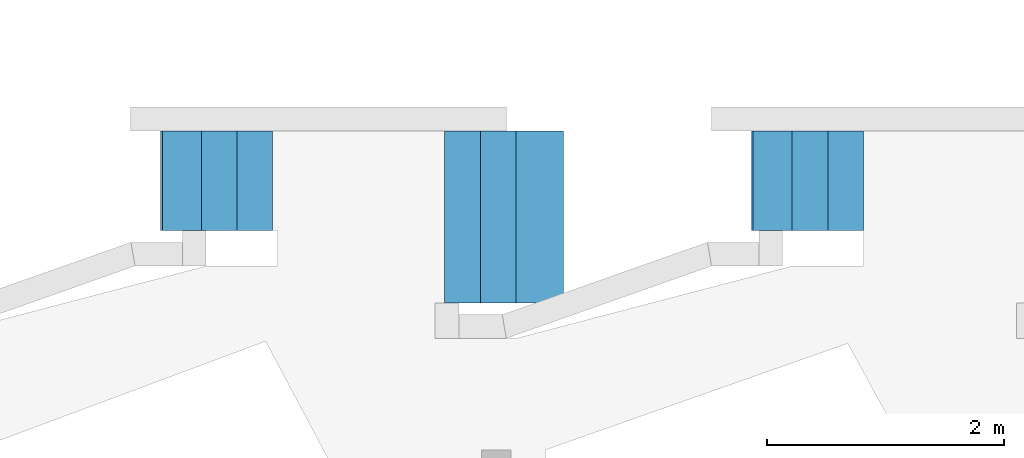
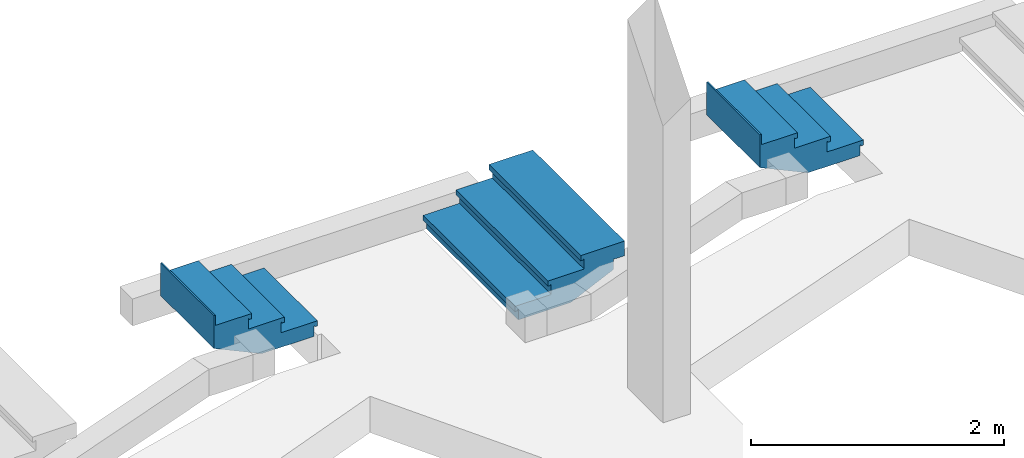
# One storey, part 7 of 8: 3 stair flights, 3 elements without a shape of their own.
"""IFC4 building model written with IfcOpenShell, lengths in metres."""

from ifc_helpers import new_model, entity, si_unit, converted_unit, derived_unit, direction, frame, origin, place, context, subcontext, project, spatial, polygons, material, constituent, constituent_set, type_object, element, aggregate, save


model = new_model("IFC4")

# Units and contexts
model_context = context("Model", 3, precision=1e-05, world=origin(), true_north=direction((6.123031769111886e-17, 1.0)))
body_context = subcontext(model_context, "Body", "Model", "MODEL_VIEW")
ifc_project = project(units=[si_unit("LENGTHUNIT", "METRE"), si_unit("AREAUNIT", "SQUARE_METRE"), si_unit("VOLUMEUNIT", "CUBIC_METRE"), converted_unit("PLANEANGLEUNIT", "DEGREE", entity("IfcRatioMeasure", 0.017453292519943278), si_unit("PLANEANGLEUNIT", "RADIAN"), dimensions=[0, 0, 0, 0, 0, 0, 0]), si_unit("MASSUNIT", "GRAM", prefix="KILO"), derived_unit("MASSDENSITYUNIT", [(si_unit("MASSUNIT", "GRAM", prefix="KILO"), 1), (si_unit("LENGTHUNIT", "METRE"), -3)]), derived_unit("MOMENTOFINERTIAUNIT", [(si_unit("LENGTHUNIT", "METRE"), 4)]), si_unit("TIMEUNIT", "SECOND"), si_unit("FREQUENCYUNIT", "HERTZ"), si_unit("THERMODYNAMICTEMPERATUREUNIT", "DEGREE_CELSIUS"), derived_unit("THERMALTRANSMITTANCEUNIT", [(si_unit("MASSUNIT", "GRAM", prefix="KILO"), 1), (si_unit("THERMODYNAMICTEMPERATUREUNIT", "KELVIN"), -1), (si_unit("TIMEUNIT", "SECOND"), -3)]), derived_unit("VOLUMETRICFLOWRATEUNIT", [(si_unit("LENGTHUNIT", "METRE"), 3), (si_unit("TIMEUNIT", "SECOND"), -1)]), derived_unit("MASSFLOWRATEUNIT", [(si_unit("MASSUNIT", "GRAM", prefix="KILO"), 1), (si_unit("TIMEUNIT", "SECOND"), -1)]), derived_unit("ROTATIONALFREQUENCYUNIT", [(si_unit("TIMEUNIT", "SECOND"), -1)]), si_unit("ELECTRICCURRENTUNIT", "AMPERE"), si_unit("ELECTRICVOLTAGEUNIT", "VOLT"), si_unit("POWERUNIT", "WATT"), si_unit("FORCEUNIT", "NEWTON", prefix="KILO"), si_unit("ILLUMINANCEUNIT", "LUX"), si_unit("LUMINOUSFLUXUNIT", "LUMEN"), si_unit("LUMINOUSINTENSITYUNIT", "CANDELA"), derived_unit("USERDEFINED", [(si_unit("MASSUNIT", "GRAM", prefix="KILO"), -1), (si_unit("LENGTHUNIT", "METRE"), -2), (si_unit("TIMEUNIT", "SECOND"), 3), (si_unit("LUMINOUSFLUXUNIT", "LUMEN"), 1)]), derived_unit("SOUNDPOWERUNIT", [(si_unit("MASSUNIT", "GRAM", prefix="KILO"), 1), (si_unit("LENGTHUNIT", "METRE"), 2), (si_unit("TIMEUNIT", "SECOND"), -3)]), derived_unit("SOUNDPRESSUREUNIT", [(si_unit("MASSUNIT", "GRAM", prefix="KILO"), 1), (si_unit("LENGTHUNIT", "METRE"), -1), (si_unit("TIMEUNIT", "SECOND"), -2)]), derived_unit("LINEARVELOCITYUNIT", [(si_unit("LENGTHUNIT", "METRE"), 1), (si_unit("TIMEUNIT", "SECOND"), -1)]), si_unit("PRESSUREUNIT", "PASCAL"), derived_unit("USERDEFINED", [(si_unit("LENGTHUNIT", "METRE"), -2), (si_unit("MASSUNIT", "GRAM", prefix="KILO"), 1), (si_unit("TIMEUNIT", "SECOND"), -2)]), derived_unit("LINEARFORCEUNIT", [(si_unit("MASSUNIT", "GRAM", prefix="KILO"), 1), (si_unit("LENGTHUNIT", "METRE"), 1), (si_unit("TIMEUNIT", "SECOND"), -2), (si_unit("LENGTHUNIT", "METRE"), -1)]), derived_unit("PLANARFORCEUNIT", [(si_unit("MASSUNIT", "GRAM", prefix="KILO"), 1), (si_unit("LENGTHUNIT", "METRE"), 1), (si_unit("TIMEUNIT", "SECOND"), -2), (si_unit("LENGTHUNIT", "METRE"), -2)])], contexts=[model_context])

# Site, building, storey
site_placement = place(None, origin())
site = spatial("IfcSite", under=ifc_project, at=site_placement, Name="Superficie", CompositionType="ELEMENT")
building_placement = place(site_placement, origin())
building = spatial("IfcBuilding", under=site, at=building_placement, CompositionType="ELEMENT")
storey_placement = place(building_placement, frame((0.0, 0.0, -0.5599999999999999)))
storey = spatial("IfcBuildingStorey", under=building, at=storey_placement, Name="Nivel -1", CompositionType="ELEMENT", Elevation=-0.5599999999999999)

# Stair, stair flight
stair_type_1 = type_object("IfcStairType", Name="Escalera prefabricada:Escalera prefabricada", PredefinedType="STRAIGHT_RUN_STAIR")
stair_1_placement = place(storey_placement, origin())
stair_1 = element("IfcStair", 1, at=stair_1_placement, inside=storey, type_object=stair_type_1, Name="Escalera prefabricada:Escalera", ObjectType="Escalera prefabricada:Escalera prefabricada", PredefinedType="STRAIGHT_RUN_STAIR")
ifc_material_1 = material(Name="Cerámica blanca", Category="Cerámica")
ifc_constituent_1 = constituent(ifc_material_1, Name="Cerámica blanca", Category="Cerámica")
ifc_material_2 = material(Name="Hormigón", Category="Hormigón")
ifc_constituent_2 = constituent(ifc_material_2, Name="Hormigón", Category="Hormigón")
ifc_constituent_set_1 = constituent_set(constituents=[ifc_constituent_1, ifc_constituent_2], Name="MaterialConstituentSet")
stair_flight_type_1 = type_object("IfcStairFlightType", Name="Tramo monolítico:Huella 40 mm Mamperlán 30 mm Contrahuella 15 mm", PredefinedType="STRAIGHT")
stair_flight_1_placement = place(stair_1_placement, frame((3.2317990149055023, -7.284170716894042, 0.0)))
stair_flight_1 = element("IfcStairFlight", 2, at=stair_flight_1_placement, type_object=stair_flight_type_1, material=ifc_constituent_set_1, Name="Escalera prefabricada:Escalera:175694 Run 1", ObjectType="Tramo monolítico:Huella 40 mm Mamperlán 30 mm Contrahuella 15 mm", PredefinedType="STRAIGHT", context=body_context, shape_type="Tessellation", body=[
    polygons([(0.9450000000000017, 0.8399999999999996, 0.08999999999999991), (0.9450000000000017, 0.8399999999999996, 0.13999999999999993), (0.9450000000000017, -1.0828671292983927e-15, 0.13999999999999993), (0.9450000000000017, -1.0828671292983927e-15, 0.08999999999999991), (0.9220000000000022, 0.8399999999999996, 0.08999999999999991), (0.9220000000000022, -1.0828671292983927e-15, 0.08999999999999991), (0.9220000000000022, 0.8399999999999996, 0.1), (0.9220000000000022, -1.0828671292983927e-15, 0.1), (0.6000000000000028, 0.8400000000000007, 0.13999999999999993), (0.6000000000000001, 1.0828671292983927e-15, 0.13999999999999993), (0.6000000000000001, 1.0828671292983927e-15, 0.1), (0.6000000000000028, 0.8400000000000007, 0.1)], [[[1, 2, 3, 4]], [[5, 1, 4, 6]], [[7, 5, 6, 8]], [[3, 2, 9, 10]], [[11, 12, 7, 8]], [[3, 10, 11, 8, 6, 4]], [[9, 2, 1, 5, 7, 12]], [[10, 9, 12, 11]]], closed=True),
    polygons([(0.915000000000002, 0.8399999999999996, 0.1), (0.915000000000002, 0.8399999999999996, 0.0), (0.9000000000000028, 0.8399999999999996, 0.0), (0.9000000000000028, 0.8399999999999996, 0.1), (0.915000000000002, -1.0828671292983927e-15, 0.1), (0.9000000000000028, -1.0828671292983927e-15, 0.1), (0.9000000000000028, -1.0828671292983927e-15, 0.0), (0.915000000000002, -1.0828671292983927e-15, 0.0)], [[[1, 2, 3, 4]], [[5, 6, 7, 8]], [[2, 1, 5, 8]], [[3, 2, 8, 7]], [[4, 3, 7, 6]], [[1, 4, 6, 5]]], closed=True),
    polygons([(0.6150000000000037, 0.8400000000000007, 0.24), (0.6150000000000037, 0.8400000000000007, 0.13999999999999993), (0.6000000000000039, 0.8400000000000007, 0.13999999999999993), (0.6000000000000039, 0.8400000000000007, 0.24), (0.6150000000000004, 1.0828671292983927e-15, 0.24), (0.6000000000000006, 1.0828671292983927e-15, 0.24), (0.6000000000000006, 1.0828671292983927e-15, 0.13999999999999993), (0.6150000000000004, 1.0828671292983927e-15, 0.13999999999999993)], [[[1, 2, 3, 4]], [[5, 6, 7, 8]], [[2, 1, 5, 8]], [[3, 2, 8, 7]], [[4, 3, 7, 6]], [[1, 4, 6, 5]]], closed=True),
    polygons([(0.6450000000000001, 1.0828671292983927e-15, 0.27999999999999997), (0.6450000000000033, 0.8400000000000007, 0.27999999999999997), (0.30000000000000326, 0.8400000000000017, 0.28), (0.30000000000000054, 2.1657342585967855e-15, 0.28), (0.30000000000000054, 2.1657342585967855e-15, 0.24), (0.30000000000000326, 0.8400000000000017, 0.24), (0.6220000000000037, 0.8400000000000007, 0.24), (0.622000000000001, 1.0828671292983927e-15, 0.24), (0.6219999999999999, 1.0828671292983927e-15, 0.22999999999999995), (0.6450000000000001, 1.0828671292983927e-15, 0.22999999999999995), (0.6450000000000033, 0.8400000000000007, 0.22999999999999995), (0.6220000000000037, 0.8400000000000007, 0.22999999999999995)], [[[1, 2, 3, 4]], [[5, 6, 7, 8]], [[1, 4, 5, 8, 9, 10]], [[3, 2, 11, 12, 7, 6]], [[4, 3, 6, 5]], [[11, 2, 1, 10]], [[12, 11, 10, 9]], [[7, 12, 9, 8]]], closed=True),
    polygons([(0.31500000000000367, 0.8400000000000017, 0.37999999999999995), (0.31500000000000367, 0.8400000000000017, 0.27999999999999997), (0.3000000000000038, 0.8400000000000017, 0.27999999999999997), (0.3000000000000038, 0.8400000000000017, 0.37999999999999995), (0.3150000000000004, 2.1657342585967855e-15, 0.37999999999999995), (0.30000000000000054, 2.1657342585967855e-15, 0.37999999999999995), (0.30000000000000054, 2.1657342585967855e-15, 0.27999999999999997), (0.3150000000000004, 2.1657342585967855e-15, 0.27999999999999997)], [[[1, 2, 3, 4]], [[5, 6, 7, 8]], [[2, 1, 5, 8]], [[3, 2, 8, 7]], [[4, 3, 7, 6]], [[1, 4, 6, 5]]], closed=True),
    polygons([(0.015000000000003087, 0.8400000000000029, 0.5199999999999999), (0.015000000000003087, 0.8400000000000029, 0.41999999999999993), (3.2486013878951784e-15, 0.8400000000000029, 0.41999999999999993), (3.2486013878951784e-15, 0.8400000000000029, 0.5199999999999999), (0.014999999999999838, 3.2486013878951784e-15, 0.5199999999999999), (0.0, 3.2486013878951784e-15, 0.5199999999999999), (0.0, 3.2486013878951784e-15, 0.41999999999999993), (0.014999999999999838, 3.2486013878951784e-15, 0.41999999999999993)], [[[1, 2, 3, 4]], [[5, 6, 7, 8]], [[2, 1, 5, 8]], [[3, 2, 8, 7]], [[4, 3, 7, 6]], [[1, 4, 6, 5]]], closed=True),
    polygons([(0.34499999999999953, 2.1657342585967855e-15, 0.41999999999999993), (0.3450000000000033, 0.8400000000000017, 0.41999999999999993), (3.2486013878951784e-15, 0.8400000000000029, 0.42000000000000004), (0.0, 3.2486013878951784e-15, 0.42000000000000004), (0.0, 3.2486013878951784e-15, 0.37999999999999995), (3.2486013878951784e-15, 0.8400000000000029, 0.37999999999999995), (0.3220000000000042, 0.8400000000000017, 0.37999999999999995), (0.32200000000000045, 2.1657342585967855e-15, 0.37999999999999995), (0.3219999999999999, 2.1657342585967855e-15, 0.36999999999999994), (0.34499999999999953, 2.1657342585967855e-15, 0.36999999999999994), (0.3450000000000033, 0.8400000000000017, 0.36999999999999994), (0.3220000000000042, 0.8400000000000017, 0.36999999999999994)], [[[1, 2, 3, 4]], [[5, 6, 7, 8]], [[1, 4, 5, 8, 9, 10]], [[3, 2, 11, 12, 7, 6]], [[4, 3, 6, 5]], [[11, 2, 1, 10]], [[12, 11, 10, 9]], [[7, 12, 9, 8]]], closed=True),
    polygons([(0.6000000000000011, 1.0828671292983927e-15, 0.1), (0.9000000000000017, -1.0828671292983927e-15, 0.1), (0.9000000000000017, 0.8399999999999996, 0.1), (0.6000000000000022, 0.8400000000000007, 0.1), (0.6000000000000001, 1.0828671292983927e-15, 0.0), (0.9000000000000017, -1.0828671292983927e-15, 0.0), (0.9000000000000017, 0.8399999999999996, 0.0), (0.6000000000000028, 0.8400000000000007, 0.0), (0.30000000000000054, 2.1657342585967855e-15, 0.24), (0.6000000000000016, 1.0828671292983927e-15, 0.24), (0.6000000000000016, 0.8400000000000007, 0.24), (0.3000000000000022, 0.8400000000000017, 0.24), (0.30000000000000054, 2.1657342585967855e-15, 0.06343524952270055), (0.4359326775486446, 2.1657342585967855e-15, 0.0), (0.4359326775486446, 0.8400000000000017, 0.0), (0.30000000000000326, 0.8400000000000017, 0.06343524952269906), (0.0, 3.2486013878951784e-15, 0.20343524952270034), (3.2486013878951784e-15, 0.8400000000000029, 0.20343524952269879), (0.0, 3.2486013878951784e-15, 0.37999999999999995), (0.30000000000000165, 2.1657342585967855e-15, 0.37999999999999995), (0.30000000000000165, 0.8400000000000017, 0.37999999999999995), (3.2486013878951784e-15, 0.8400000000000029, 0.37999999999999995)], [[[1, 2, 3, 4]], [[2, 1, 5, 6]], [[3, 2, 6, 7]], [[4, 3, 7, 8]], [[9, 10, 11, 12]], [[5, 1, 10, 9, 13, 14]], [[1, 4, 11, 10]], [[4, 8, 15, 16, 12, 11]], [[6, 5, 14, 15, 8, 7]], [[15, 14, 13, 17, 18, 16]], [[19, 20, 21, 22]], [[20, 19, 17, 13, 9]], [[9, 12, 21, 20]], [[22, 21, 12, 16, 18]], [[19, 22, 18, 17]]], closed=True),
])
aggregate(stair_1, [stair_flight_1])

stair_type_2 = type_object("IfcStairType", Name="Escalera prefabricada:Escalera prefabricada", PredefinedType="STRAIGHT_RUN_STAIR")
stair_2_placement = place(storey_placement, origin())
stair_2 = element("IfcStair", 3, at=stair_2_placement, inside=storey, type_object=stair_type_2, Name="Escalera prefabricada:Escalera", ObjectType="Escalera prefabricada:Escalera prefabricada", PredefinedType="STRAIGHT_RUN_STAIR")
ifc_constituent_3 = constituent(ifc_material_1, Name="Cerámica blanca", Category="Cerámica")
ifc_constituent_4 = constituent(ifc_material_2, Name="Hormigón", Category="Hormigón")
ifc_constituent_set_2 = constituent_set(constituents=[ifc_constituent_3, ifc_constituent_4], Name="MaterialConstituentSet")
stair_flight_type_2 = type_object("IfcStairFlightType", Name="Tramo monolítico:Huella 40 mm Mamperlán 30 mm Contrahuella 15 mm", PredefinedType="STRAIGHT")
stair_flight_2_placement = place(stair_2_placement, frame((8.211343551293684, -7.28417071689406, 0.0)))
stair_flight_2 = element("IfcStairFlight", 4, at=stair_flight_2_placement, type_object=stair_flight_type_2, material=ifc_constituent_set_2, Name="Escalera prefabricada:Escalera:175709 Run 1", ObjectType="Tramo monolítico:Huella 40 mm Mamperlán 30 mm Contrahuella 15 mm", PredefinedType="STRAIGHT", context=body_context, shape_type="Tessellation", body=[
    polygons([(0.9450000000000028, 0.8400000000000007, 0.08999999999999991), (0.9450000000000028, 0.8400000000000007, 0.13999999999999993), (0.9450000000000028, 1.0828671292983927e-15, 0.13999999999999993), (0.9450000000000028, 1.0828671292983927e-15, 0.08999999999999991), (0.9220000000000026, 0.8400000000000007, 0.08999999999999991), (0.9220000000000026, 1.0828671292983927e-15, 0.08999999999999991), (0.9220000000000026, 0.8399999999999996, 0.1), (0.9220000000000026, 1.0828671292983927e-15, 0.1), (0.6000000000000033, 0.8400000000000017, 0.13999999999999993), (0.6000000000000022, 2.1657342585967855e-15, 0.13999999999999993), (0.6000000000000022, 2.1657342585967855e-15, 0.1), (0.6000000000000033, 0.8400000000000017, 0.1)], [[[1, 2, 3, 4]], [[5, 1, 4, 6]], [[7, 5, 6, 8]], [[3, 2, 9, 10]], [[11, 12, 7, 8]], [[3, 10, 11, 8, 6, 4]], [[9, 2, 1, 5, 7, 12]], [[10, 9, 12, 11]]], closed=True),
    polygons([(0.9150000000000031, 0.8400000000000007, 0.1), (0.9150000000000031, 0.8400000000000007, 0.0), (0.9000000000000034, 0.8400000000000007, 0.0), (0.9000000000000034, 0.8400000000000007, 0.1), (0.9150000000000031, 1.0828671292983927e-15, 0.1), (0.9000000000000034, 1.0828671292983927e-15, 0.1), (0.9000000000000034, 1.0828671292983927e-15, 0.0), (0.9150000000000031, 1.0828671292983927e-15, 0.0)], [[[1, 2, 3, 4]], [[5, 6, 7, 8]], [[2, 1, 5, 8]], [[3, 2, 8, 7]], [[4, 3, 7, 6]], [[1, 4, 6, 5]]], closed=True),
    polygons([(0.6150000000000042, 0.8400000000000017, 0.24), (0.6150000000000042, 0.8400000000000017, 0.13999999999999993), (0.6000000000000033, 0.8400000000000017, 0.13999999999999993), (0.6000000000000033, 0.8400000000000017, 0.24), (0.6149999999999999, 2.1657342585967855e-15, 0.24), (0.6000000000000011, 2.1657342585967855e-15, 0.24), (0.6000000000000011, 2.1657342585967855e-15, 0.13999999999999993), (0.6149999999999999, 2.1657342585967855e-15, 0.13999999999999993)], [[[1, 2, 3, 4]], [[5, 6, 7, 8]], [[2, 1, 5, 8]], [[3, 2, 8, 7]], [[4, 3, 7, 6]], [[1, 4, 6, 5]]], closed=True),
    polygons([(0.6450000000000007, 2.1657342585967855e-15, 0.27999999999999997), (0.6450000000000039, 0.8400000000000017, 0.27999999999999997), (0.3000000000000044, 0.8400000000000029, 0.28), (0.3000000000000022, 3.2486013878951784e-15, 0.28), (0.3000000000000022, 3.2486013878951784e-15, 0.24), (0.3000000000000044, 0.8400000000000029, 0.24), (0.6220000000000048, 0.8400000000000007, 0.24), (0.6220000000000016, 2.1657342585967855e-15, 0.24), (0.6220000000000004, 2.1657342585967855e-15, 0.22999999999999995), (0.6450000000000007, 2.1657342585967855e-15, 0.22999999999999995), (0.6450000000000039, 0.8400000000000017, 0.22999999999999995), (0.6220000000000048, 0.8400000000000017, 0.22999999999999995)], [[[1, 2, 3, 4]], [[5, 6, 7, 8]], [[1, 4, 5, 8, 9, 10]], [[3, 2, 11, 12, 7, 6]], [[4, 3, 6, 5]], [[11, 2, 1, 10]], [[12, 11, 10, 9]], [[7, 12, 9, 8]]], closed=True),
    polygons([(0.3150000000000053, 0.8400000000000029, 0.37999999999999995), (0.3150000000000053, 0.8400000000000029, 0.27999999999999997), (0.3000000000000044, 0.8400000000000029, 0.27999999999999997), (0.3000000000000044, 0.8400000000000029, 0.37999999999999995), (0.31500000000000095, 3.2486013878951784e-15, 0.37999999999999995), (0.3000000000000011, 3.2486013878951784e-15, 0.37999999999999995), (0.3000000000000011, 3.2486013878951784e-15, 0.27999999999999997), (0.31500000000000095, 3.2486013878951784e-15, 0.27999999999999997)], [[[1, 2, 3, 4]], [[5, 6, 7, 8]], [[2, 1, 5, 8]], [[3, 2, 8, 7]], [[4, 3, 7, 6]], [[1, 4, 6, 5]]], closed=True),
    polygons([(0.01500000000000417, 0.840000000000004, 0.5199999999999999), (0.01500000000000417, 0.840000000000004, 0.41999999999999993), (4.331468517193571e-15, 0.840000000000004, 0.41999999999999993), (4.331468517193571e-15, 0.840000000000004, 0.5199999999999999), (0.015000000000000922, 5.4143356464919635e-15, 0.5199999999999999), (1.0828671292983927e-15, 5.4143356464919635e-15, 0.5199999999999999), (1.0828671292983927e-15, 5.4143356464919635e-15, 0.41999999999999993), (0.015000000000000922, 5.4143356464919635e-15, 0.41999999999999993)], [[[1, 2, 3, 4]], [[5, 6, 7, 8]], [[2, 1, 5, 8]], [[3, 2, 8, 7]], [[4, 3, 7, 6]], [[1, 4, 6, 5]]], closed=True),
    polygons([(0.34500000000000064, 2.1657342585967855e-15, 0.41999999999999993), (0.34500000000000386, 0.8400000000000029, 0.41999999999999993), (4.331468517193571e-15, 0.840000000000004, 0.42000000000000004), (1.0828671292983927e-15, 5.4143356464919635e-15, 0.42000000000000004), (1.0828671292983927e-15, 5.4143356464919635e-15, 0.37999999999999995), (4.331468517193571e-15, 0.840000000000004, 0.37999999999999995), (0.3220000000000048, 0.8400000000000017, 0.37999999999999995), (0.32200000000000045, 2.1657342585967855e-15, 0.37999999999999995), (0.32200000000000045, 3.2486013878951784e-15, 0.36999999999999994), (0.34500000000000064, 3.2486013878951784e-15, 0.36999999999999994), (0.34500000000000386, 0.8400000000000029, 0.36999999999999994), (0.32200000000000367, 0.8400000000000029, 0.36999999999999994)], [[[1, 2, 3, 4]], [[5, 6, 7, 8]], [[1, 4, 5, 8, 9, 10]], [[3, 2, 11, 12, 7, 6]], [[4, 3, 6, 5]], [[11, 2, 1, 10]], [[12, 11, 10, 9]], [[7, 12, 9, 8]]], closed=True),
    polygons([(0.6000000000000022, 2.1657342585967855e-15, 0.1), (0.9000000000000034, 1.0828671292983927e-15, 0.1), (0.9000000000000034, 0.8400000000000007, 0.1), (0.6000000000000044, 0.8400000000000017, 0.1), (0.6000000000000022, 2.1657342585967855e-15, 0.0), (0.9000000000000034, 1.0828671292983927e-15, 0.0), (0.9000000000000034, 0.8400000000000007, 0.0), (0.6000000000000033, 0.8400000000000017, 0.0), (0.30000000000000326, 3.2486013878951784e-15, 0.24), (0.6000000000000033, 2.1657342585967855e-15, 0.24), (0.6000000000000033, 0.8400000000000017, 0.24), (0.30000000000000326, 0.8400000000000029, 0.24), (0.3000000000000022, 3.2486013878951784e-15, 0.06343524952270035), (0.4359326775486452, 2.1657342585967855e-15, -2.0303758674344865e-16), (0.4359326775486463, 0.8400000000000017, -2.0303758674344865e-16), (0.30000000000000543, 0.8400000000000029, 0.06343524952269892), (3.2486013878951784e-15, 5.4143356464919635e-15, 0.20343524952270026), (4.331468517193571e-15, 0.840000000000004, 0.20343524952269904), (1.0828671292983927e-15, 5.4143356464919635e-15, 0.37999999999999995), (0.3000000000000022, 3.2486013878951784e-15, 0.37999999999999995), (0.3000000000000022, 0.8400000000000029, 0.37999999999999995), (4.331468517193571e-15, 0.840000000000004, 0.37999999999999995)], [[[1, 2, 3, 4]], [[2, 1, 5, 6]], [[3, 2, 6, 7]], [[4, 3, 7, 8]], [[9, 10, 11, 12]], [[5, 1, 10, 9, 13, 14]], [[1, 4, 11, 10]], [[4, 8, 15, 16, 12, 11]], [[6, 5, 14, 15, 8, 7]], [[15, 14, 13, 17, 18, 16]], [[19, 20, 21, 22]], [[20, 19, 17, 13, 9]], [[9, 12, 21, 20]], [[22, 21, 12, 16, 18]], [[19, 22, 18, 17]]], closed=True),
])
aggregate(stair_2, [stair_flight_2])

stair_type_3 = type_object("IfcStairType", Name="Escalera prefabricada:Escalera prefabricada", PredefinedType="STRAIGHT_RUN_STAIR")
stair_3_placement = place(storey_placement, origin())
stair_3 = element("IfcStair", 5, at=stair_3_placement, inside=storey, type_object=stair_type_3, Name="Escalera prefabricada:Escalera", ObjectType="Escalera prefabricada:Escalera prefabricada", PredefinedType="STRAIGHT_RUN_STAIR")
ifc_constituent_5 = constituent(ifc_material_1, Name="Cerámica blanca", Category="Cerámica")
ifc_constituent_6 = constituent(ifc_material_2, Name="Hormigón", Category="Hormigón")
ifc_constituent_set_3 = constituent_set(constituents=[ifc_constituent_5, ifc_constituent_6], Name="MaterialConstituentSet")
stair_flight_type_3 = type_object("IfcStairFlightType", Name="Tramo monolítico:Huella 40 mm Mamperlán 30 mm Contrahuella 15 mm", PredefinedType="STRAIGHT")
stair_flight_3_placement = place(stair_3_placement, frame((5.626799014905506, -7.894170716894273, 0.0)))
stair_flight_3 = element("IfcStairFlight", 6, at=stair_flight_3_placement, type_object=stair_flight_type_3, material=ifc_constituent_set_3, Name="Escalera prefabricada:Escalera:176149 Run 1", ObjectType="Tramo monolítico:Huella 40 mm Mamperlán 30 mm Contrahuella 15 mm", PredefinedType="STRAIGHT", context=body_context, shape_type="Tessellation", body=[
    polygons([(0.0, 3.2486013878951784e-15, 0.08999999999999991), (0.0, 3.2486013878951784e-15, 0.13999999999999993), (0.0, 1.4500000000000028, 0.13999999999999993), (1.0828671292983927e-15, 1.4500000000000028, 0.08999999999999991), (0.023000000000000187, 3.2486013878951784e-15, 0.08999999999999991), (0.023000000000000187, 1.4500000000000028, 0.08999999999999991), (0.022999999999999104, 3.2486013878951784e-15, 0.1), (0.023000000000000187, 1.4500000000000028, 0.1), (0.34499999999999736, 2.1657342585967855e-15, 0.13999999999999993), (0.3450000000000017, 1.4500000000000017, 0.13999999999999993), (0.3450000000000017, 1.4500000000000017, 0.1), (0.34499999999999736, 2.1657342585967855e-15, 0.1)], [[[1, 2, 3, 4]], [[5, 1, 4, 6]], [[7, 5, 6, 8]], [[3, 2, 9, 10]], [[11, 12, 7, 8]], [[3, 10, 11, 8, 6, 4]], [[9, 2, 1, 5, 7, 12]], [[10, 9, 12, 11]]], closed=True),
    polygons([(0.029999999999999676, 3.2486013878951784e-15, 0.1), (0.029999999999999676, 3.2486013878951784e-15, 0.0), (0.04499999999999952, 3.2486013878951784e-15, 0.0), (0.04499999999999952, 3.2486013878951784e-15, 0.1), (0.029999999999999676, 1.4500000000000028, 0.1), (0.04499999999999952, 1.4500000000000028, 0.1), (0.04499999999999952, 1.4500000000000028, 0.0), (0.029999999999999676, 1.4500000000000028, 0.0)], [[[1, 2, 3, 4]], [[5, 6, 7, 8]], [[2, 1, 5, 8]], [[3, 2, 8, 7]], [[4, 3, 7, 6]], [[1, 4, 6, 5]]], closed=True),
    polygons([(0.3299999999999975, 2.1657342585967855e-15, 0.24), (0.3299999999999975, 2.1657342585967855e-15, 0.13999999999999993), (0.34499999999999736, 2.1657342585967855e-15, 0.13999999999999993), (0.34499999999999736, 2.1657342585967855e-15, 0.24), (0.33000000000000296, 1.4500000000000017, 0.24), (0.3450000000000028, 1.4500000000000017, 0.24), (0.3450000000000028, 1.4500000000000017, 0.13999999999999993), (0.33000000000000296, 1.4500000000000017, 0.13999999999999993)], [[[1, 2, 3, 4]], [[5, 6, 7, 8]], [[2, 1, 5, 8]], [[3, 2, 8, 7]], [[4, 3, 7, 6]], [[1, 4, 6, 5]]], closed=True),
    polygons([(0.3000000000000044, 1.4500000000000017, 0.27999999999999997), (0.2999999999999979, 2.1657342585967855e-15, 0.27999999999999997), (0.6449999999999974, 1.0828671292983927e-15, 0.28), (0.6450000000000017, 1.4500000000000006, 0.28), (0.6450000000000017, 1.4500000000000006, 0.24), (0.6449999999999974, 1.0828671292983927e-15, 0.24), (0.32299999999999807, 2.1657342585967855e-15, 0.24), (0.32300000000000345, 1.4500000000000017, 0.24), (0.32300000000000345, 1.4500000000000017, 0.22999999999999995), (0.3000000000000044, 1.4500000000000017, 0.22999999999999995), (0.2999999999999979, 2.1657342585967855e-15, 0.22999999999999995), (0.32299999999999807, 2.1657342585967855e-15, 0.22999999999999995)], [[[1, 2, 3, 4]], [[5, 6, 7, 8]], [[1, 4, 5, 8, 9, 10]], [[3, 2, 11, 12, 7, 6]], [[4, 3, 6, 5]], [[11, 2, 1, 10]], [[12, 11, 10, 9]], [[7, 12, 9, 8]]], closed=True),
    polygons([(0.6299999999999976, 1.0828671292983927e-15, 0.37999999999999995), (0.6299999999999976, 1.0828671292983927e-15, 0.27999999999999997), (0.6449999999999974, 1.0828671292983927e-15, 0.27999999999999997), (0.6449999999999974, 1.0828671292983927e-15, 0.37999999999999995), (0.630000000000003, 1.4500000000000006, 0.37999999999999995), (0.6450000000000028, 1.4500000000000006, 0.37999999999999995), (0.6450000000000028, 1.4500000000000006, 0.27999999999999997), (0.630000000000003, 1.4500000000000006, 0.27999999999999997)], [[[1, 2, 3, 4]], [[5, 6, 7, 8]], [[2, 1, 5, 8]], [[3, 2, 8, 7]], [[4, 3, 7, 6]], [[1, 4, 6, 5]]], closed=True),
    polygons([(0.6000000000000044, 1.4500000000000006, 0.41999999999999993), (0.5999999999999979, 1.0828671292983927e-15, 0.41999999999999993), (0.9999999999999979, 1.0828671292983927e-15, 0.42000000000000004), (1.0000000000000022, 1.4499999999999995, 0.42000000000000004), (1.0000000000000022, 1.4499999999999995, 0.37999999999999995), (0.9999999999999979, 1.0828671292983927e-15, 0.37999999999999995), (0.6229999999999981, 1.0828671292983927e-15, 0.37999999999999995), (0.6230000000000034, 1.4500000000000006, 0.37999999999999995), (0.6230000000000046, 1.4500000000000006, 0.36999999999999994), (0.6000000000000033, 1.4500000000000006, 0.36999999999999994), (0.5999999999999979, 1.0828671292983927e-15, 0.36999999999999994), (0.6229999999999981, 1.0828671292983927e-15, 0.36999999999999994)], [[[1, 2, 3, 4]], [[5, 6, 7, 8]], [[1, 4, 5, 8, 9, 10]], [[3, 2, 11, 12, 7, 6]], [[4, 3, 6, 5]], [[11, 2, 1, 10]], [[12, 11, 10, 9]], [[7, 12, 9, 8]]], closed=True),
    polygons([(0.34500000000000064, 1.4500000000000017, 0.1), (0.04499999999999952, 1.4500000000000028, 0.1), (0.04499999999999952, 3.2486013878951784e-15, 0.1), (0.3449999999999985, 2.1657342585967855e-15, 0.1), (0.3450000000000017, 1.4500000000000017, 0.0), (0.04499999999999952, 1.4500000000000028, 0.0), (0.04499999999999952, 3.2486013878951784e-15, 0.0), (0.34499999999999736, 2.1657342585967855e-15, 0.0), (0.5090673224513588, 1.4500000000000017, 0.0), (0.5090673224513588, 2.1657342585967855e-15, 0.0), (0.6450000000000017, 1.4500000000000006, 0.06343524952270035), (0.9000000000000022, 1.4499999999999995, 0.18243524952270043), (0.8999999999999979, 1.0828671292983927e-15, 0.1824352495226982), (0.6449999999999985, 1.0828671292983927e-15, 0.06343524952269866), (0.9999999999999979, 1.0828671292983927e-15, 0.2799999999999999), (0.8999999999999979, 1.0828671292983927e-15, 0.2799999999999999), (0.9000000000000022, 1.4499999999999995, 0.2799999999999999), (1.0000000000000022, 1.4499999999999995, 0.2799999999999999), (1.0000000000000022, 1.4499999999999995, 0.37999999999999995), (0.9999999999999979, 1.0828671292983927e-15, 0.37999999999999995), (0.6450000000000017, 1.4500000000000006, 0.24), (0.34499999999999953, 1.4500000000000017, 0.24), (0.34499999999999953, 2.1657342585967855e-15, 0.24), (0.6449999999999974, 1.0828671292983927e-15, 0.24), (0.6450000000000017, 1.4500000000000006, 0.37999999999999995), (0.6449999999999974, 1.0828671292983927e-15, 0.37999999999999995)], [[[1, 2, 3, 4]], [[2, 1, 5, 6]], [[3, 2, 6, 7]], [[4, 3, 7, 8]], [[6, 5, 9, 10, 8, 7]], [[10, 9, 11, 12, 13, 14]], [[15, 16, 17, 18]], [[15, 18, 19, 20]], [[21, 22, 23, 24]], [[5, 1, 22, 21, 11, 9]], [[1, 4, 23, 22]], [[4, 8, 10, 14, 24, 23]], [[25, 26, 20, 19]], [[25, 19, 18, 17, 12, 11, 21]], [[21, 24, 26, 25]], [[20, 26, 24, 14, 13, 16, 15]], [[13, 12, 17, 16]]], closed=True),
])
aggregate(stair_3, [stair_flight_3])

save(model, "model.ifc")
